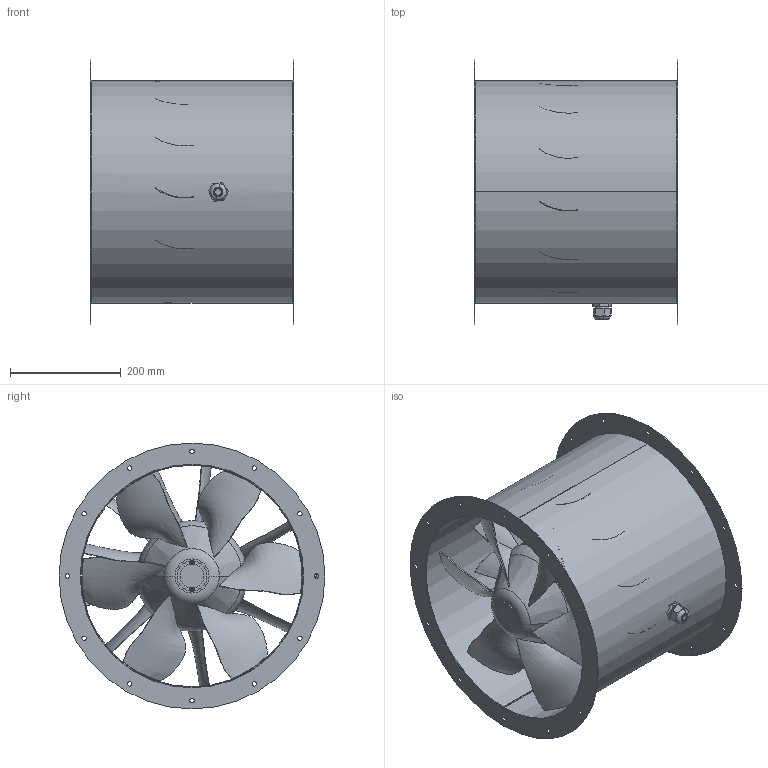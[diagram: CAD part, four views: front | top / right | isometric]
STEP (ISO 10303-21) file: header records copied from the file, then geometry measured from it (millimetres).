
FILE_DESCRIPTION (( 'STEP AP203' ), '1' );
FILE_NAME ('154093-00_AL400EC01_step.step', '2020-05-29T08:23:00', ( '' ), ( '' ), 'SwSTEP 2.0', 'SolidWorks 2017', '' );
FILE_SCHEMA (( 'CONFIG_CONTROL_DESIGN' ));
Length unit declared in the file: millimetre
Products named in the file (1): 154093-00_AL400EC01_step
Bounding box: 368 x 480 x 480 mm (x, y, z)
Surface area: 1703553.6 mm2 (no closed solid volume)
Topology: 0 solids, 87 shells, 754 faces, 4191 edges, 3425 vertices
Faces by surface type: plane 226, cylinder 221, bspline 164, torus 91, cone 52
Entity records: 879597 total; most frequent: CARTESIAN_POINT 850432, ORIENTED_EDGE 5368, DIRECTION 5192, EDGE_CURVE 4183, VERTEX_POINT 3425, LINE 1762, VECTOR 1762, AXIS2_PLACEMENT_3D 1715
